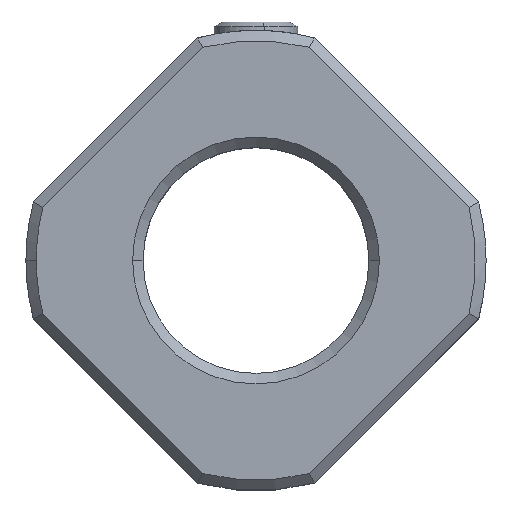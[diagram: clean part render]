
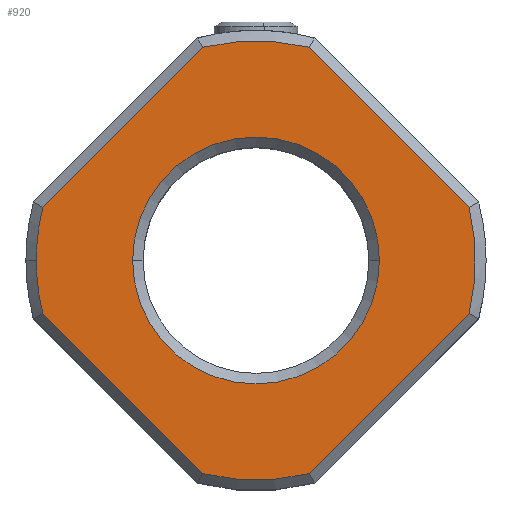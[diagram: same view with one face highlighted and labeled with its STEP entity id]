
A CAD part, top view. The second image highlights one B-rep face of the part: STEP entity #920.
In plain terms, the highlighted planar face has unit normal (0, 0, 1).
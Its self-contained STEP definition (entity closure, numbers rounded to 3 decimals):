
#421 = CARTESIAN_POINT ( 'NONE',  ( 5.9, 0., 0. ) ) ;
#434 = AXIS2_PLACEMENT_3D ( 'NONE', #448, #447, #446 ) ;
#435 = CIRCLE ( 'NONE', #434, 5.9 ) ;
#446 = DIRECTION ( 'NONE',  ( 1., 0., 0. ) ) ;
#447 = DIRECTION ( 'NONE',  ( 0., 0., -1. ) ) ;
#448 = CARTESIAN_POINT ( 'NONE',  ( 0., 0., 0. ) ) ;
#515 = CARTESIAN_POINT ( 'NONE',  ( -5.9, 0., 0. ) ) ;
#559 = CARTESIAN_POINT ( 'NONE',  ( -10.188, -2.54, 0. ) ) ;
#560 = CARTESIAN_POINT ( 'NONE',  ( -10.5, 0., 0. ) ) ;
#561 = CIRCLE ( 'NONE', #569, 10.5 ) ;
#566 = DIRECTION ( 'NONE',  ( 1., 0., 0. ) ) ;
#567 = DIRECTION ( 'NONE',  ( 0., 0., 1. ) ) ;
#568 = CARTESIAN_POINT ( 'NONE',  ( 0., 0., 0. ) ) ;
#569 = AXIS2_PLACEMENT_3D ( 'NONE', #568, #567, #566 ) ;
#902 = ORIENTED_EDGE ( 'NONE', *, *, #903, .T. ) ;
#903 = EDGE_CURVE ( 'NONE', #930, #931, #1873, .T. ) ;
#904 = ORIENTED_EDGE ( 'NONE', *, *, #905, .T. ) ;
#905 = EDGE_CURVE ( 'NONE', #931, #906, #1869, .T. ) ;
#906 = VERTEX_POINT ( 'NONE', #1702 ) ;
#907 = ORIENTED_EDGE ( 'NONE', *, *, #908, .T. ) ;
#908 = EDGE_CURVE ( 'NONE', #906, #909, #1701, .T. ) ;
#909 = VERTEX_POINT ( 'NONE', #1678 ) ;
#911 = ORIENTED_EDGE ( 'NONE', *, *, #912, .T. ) ;
#912 = EDGE_CURVE ( 'NONE', #909, #913, #1671, .T. ) ;
#913 = VERTEX_POINT ( 'NONE', #1667 ) ;
#914 = ORIENTED_EDGE ( 'NONE', *, *, #915, .T. ) ;
#915 = EDGE_CURVE ( 'NONE', #913, #1159, #1666, .T. ) ;
#916 = ORIENTED_EDGE ( 'NONE', *, *, #1158, .T. ) ;
#917 = ORIENTED_EDGE ( 'NONE', *, *, #932, .T. ) ;
#920 = ADVANCED_FACE ( 'NONE', ( #1657, #1656 ), #1654, .T. ) ;
#921 = EDGE_LOOP ( 'NONE', ( #923, #924 ) ) ;
#923 = ORIENTED_EDGE ( 'NONE', *, *, #1112, .T. ) ;
#924 = ORIENTED_EDGE ( 'NONE', *, *, #925, .T. ) ;
#925 = EDGE_CURVE ( 'NONE', #1133, #1101, #1842, .T. ) ;
#926 = EDGE_LOOP ( 'NONE', ( #927, #902, #904, #907, #911, #914, #916, #917, #934 ) ) ;
#927 = ORIENTED_EDGE ( 'NONE', *, *, #928, .T. ) ;
#928 = EDGE_CURVE ( 'NONE', #929, #930, #1837, .T. ) ;
#929 = VERTEX_POINT ( 'NONE', #1833 ) ;
#930 = VERTEX_POINT ( 'NONE', #1832 ) ;
#931 = VERTEX_POINT ( 'NONE', #1831 ) ;
#932 = EDGE_CURVE ( 'NONE', #1160, #933, #1830, .T. ) ;
#933 = VERTEX_POINT ( 'NONE', #1826 ) ;
#934 = ORIENTED_EDGE ( 'NONE', *, *, #935, .T. ) ;
#935 = EDGE_CURVE ( 'NONE', #933, #929, #1867, .T. ) ;
#1101 = VERTEX_POINT ( 'NONE', #421 ) ;
#1112 = EDGE_CURVE ( 'NONE', #1101, #1133, #435, .T. ) ;
#1133 = VERTEX_POINT ( 'NONE', #515 ) ;
#1158 = EDGE_CURVE ( 'NONE', #1159, #1160, #561, .T. ) ;
#1159 = VERTEX_POINT ( 'NONE', #560 ) ;
#1160 = VERTEX_POINT ( 'NONE', #559 ) ;
#1650 = DIRECTION ( 'NONE',  ( 1., 0., 0. ) ) ;
#1651 = DIRECTION ( 'NONE',  ( 0., 0., 1. ) ) ;
#1652 = CARTESIAN_POINT ( 'NONE',  ( 0., 13.435, 0. ) ) ;
#1653 = AXIS2_PLACEMENT_3D ( 'NONE', #1652, #1651, #1650 ) ;
#1654 = PLANE ( 'NONE',  #1653 ) ;
#1656 = FACE_OUTER_BOUND ( 'NONE', #926, .T. ) ;
#1657 = FACE_BOUND ( 'NONE', #921, .T. ) ;
#1662 = DIRECTION ( 'NONE',  ( 1., 0., 0. ) ) ;
#1663 = DIRECTION ( 'NONE',  ( 0., 0., 1. ) ) ;
#1664 = CARTESIAN_POINT ( 'NONE',  ( 0., 0., 0. ) ) ;
#1665 = AXIS2_PLACEMENT_3D ( 'NONE', #1664, #1663, #1662 ) ;
#1666 = CIRCLE ( 'NONE', #1665, 10.5 ) ;
#1667 = CARTESIAN_POINT ( 'NONE',  ( -10.188, 2.54, 0. ) ) ;
#1668 = DIRECTION ( 'NONE',  ( -0.707, -0.707, 0. ) ) ;
#1669 = VECTOR ( 'NONE', #1668, 1000. ) ;
#1670 = CARTESIAN_POINT ( 'NONE',  ( 0.354, 13.081, 0. ) ) ;
#1671 = LINE ( 'NONE', #1670, #1669 ) ;
#1678 = CARTESIAN_POINT ( 'NONE',  ( -2.54, 10.188, 0. ) ) ;
#1679 = DIRECTION ( 'NONE',  ( 1., 0., 0. ) ) ;
#1698 = DIRECTION ( 'NONE',  ( 0., 0., 1. ) ) ;
#1699 = CARTESIAN_POINT ( 'NONE',  ( 0., 0., 0. ) ) ;
#1700 = AXIS2_PLACEMENT_3D ( 'NONE', #1699, #1698, #1679 ) ;
#1701 = CIRCLE ( 'NONE', #1700, 10.5 ) ;
#1702 = CARTESIAN_POINT ( 'NONE',  ( 2.54, 10.188, 0. ) ) ;
#1703 = DIRECTION ( 'NONE',  ( -0.707, 0.707, 0. ) ) ;
#1704 = VECTOR ( 'NONE', #1703, 1000. ) ;
#1705 = CARTESIAN_POINT ( 'NONE',  ( -0.354, 13.081, 0. ) ) ;
#1729 = CARTESIAN_POINT ( 'NONE',  ( 0., 0., 0. ) ) ;
#1826 = CARTESIAN_POINT ( 'NONE',  ( -2.54, -10.188, 0. ) ) ;
#1827 = DIRECTION ( 'NONE',  ( 0.707, -0.707, 0. ) ) ;
#1828 = VECTOR ( 'NONE', #1827, 1000. ) ;
#1829 = CARTESIAN_POINT ( 'NONE',  ( -13.081, 0.354, 0. ) ) ;
#1830 = LINE ( 'NONE', #1829, #1828 ) ;
#1831 = CARTESIAN_POINT ( 'NONE',  ( 10.188, 2.54, 0. ) ) ;
#1832 = CARTESIAN_POINT ( 'NONE',  ( 10.188, -2.54, 0. ) ) ;
#1833 = CARTESIAN_POINT ( 'NONE',  ( 2.54, -10.188, 0. ) ) ;
#1834 = DIRECTION ( 'NONE',  ( 0.707, 0.707, 0. ) ) ;
#1835 = VECTOR ( 'NONE', #1834, 1000. ) ;
#1836 = CARTESIAN_POINT ( 'NONE',  ( 13.081, 0.354, 0. ) ) ;
#1837 = LINE ( 'NONE', #1836, #1835 ) ;
#1838 = DIRECTION ( 'NONE',  ( 1., 0., 0. ) ) ;
#1839 = DIRECTION ( 'NONE',  ( 0., 0., -1. ) ) ;
#1840 = CARTESIAN_POINT ( 'NONE',  ( 0., 0., 0. ) ) ;
#1841 = AXIS2_PLACEMENT_3D ( 'NONE', #1840, #1839, #1838 ) ;
#1842 = CIRCLE ( 'NONE', #1841, 5.9 ) ;
#1863 = DIRECTION ( 'NONE',  ( 1., 0., 0. ) ) ;
#1864 = DIRECTION ( 'NONE',  ( 0., 0., 1. ) ) ;
#1865 = CARTESIAN_POINT ( 'NONE',  ( 0., 0., 0. ) ) ;
#1866 = AXIS2_PLACEMENT_3D ( 'NONE', #1865, #1864, #1863 ) ;
#1867 = CIRCLE ( 'NONE', #1866, 10.5 ) ;
#1869 = LINE ( 'NONE', #1705, #1704 ) ;
#1870 = DIRECTION ( 'NONE',  ( 1., 0., 0. ) ) ;
#1871 = DIRECTION ( 'NONE',  ( 0., 0., 1. ) ) ;
#1872 = AXIS2_PLACEMENT_3D ( 'NONE', #1729, #1871, #1870 ) ;
#1873 = CIRCLE ( 'NONE', #1872, 10.5 ) ;
